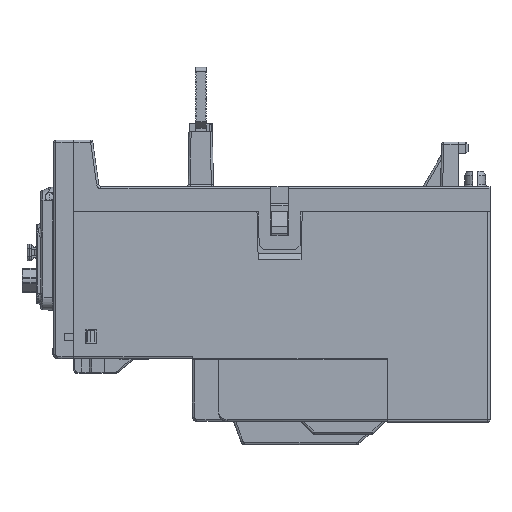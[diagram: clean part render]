
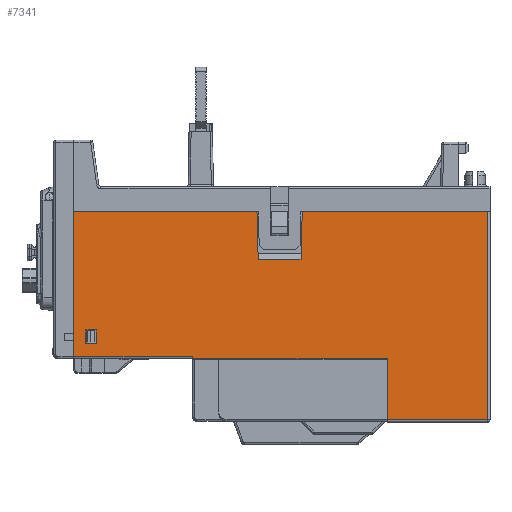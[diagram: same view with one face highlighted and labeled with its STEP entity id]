
A CAD part, left-side view. The second image highlights one B-rep face of the part: STEP entity #7341.
In plain terms, the highlighted planar face has unit normal (-1, 0, 0).
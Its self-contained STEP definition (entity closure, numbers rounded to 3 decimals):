
#2607=FACE_BOUND('',#27118,.T.);
#2608=FACE_BOUND('',#27119,.T.);
#7341=ADVANCED_FACE('',(#2607,#2608),#14533,.T.);
#14533=PLANE('',#139968);
#27118=EDGE_LOOP('',(#36212,#36213,#36214,#36215,#36216,#36217,#36218,#36219,
#36220,#36221,#36222,#36223));
#27119=EDGE_LOOP('',(#36224,#36225,#36226,#36227));
#36212=ORIENTED_EDGE('',*,*,#89007,.F.);
#36213=ORIENTED_EDGE('',*,*,#89008,.T.);
#36214=ORIENTED_EDGE('',*,*,#87931,.F.);
#36215=ORIENTED_EDGE('',*,*,#89009,.T.);
#36216=ORIENTED_EDGE('',*,*,#89010,.T.);
#36217=ORIENTED_EDGE('',*,*,#89011,.T.);
#36218=ORIENTED_EDGE('',*,*,#87964,.T.);
#36219=ORIENTED_EDGE('',*,*,#88313,.F.);
#36220=ORIENTED_EDGE('',*,*,#89012,.F.);
#36221=ORIENTED_EDGE('',*,*,#89013,.F.);
#36222=ORIENTED_EDGE('',*,*,#88700,.F.);
#36223=ORIENTED_EDGE('',*,*,#88789,.T.);
#36224=ORIENTED_EDGE('',*,*,#89014,.F.);
#36225=ORIENTED_EDGE('',*,*,#89015,.F.);
#36226=ORIENTED_EDGE('',*,*,#89016,.F.);
#36227=ORIENTED_EDGE('',*,*,#89017,.F.);
#74758=VERTEX_POINT('',#185927);
#74759=VERTEX_POINT('',#185929);
#74791=VERTEX_POINT('',#185994);
#74792=VERTEX_POINT('',#185996);
#75065=VERTEX_POINT('',#186692);
#75371=VERTEX_POINT('',#187453);
#75372=VERTEX_POINT('',#187455);
#75428=VERTEX_POINT('',#187627);
#75563=VERTEX_POINT('',#188034);
#75564=VERTEX_POINT('',#188039);
#75565=VERTEX_POINT('',#188041);
#75566=VERTEX_POINT('',#188044);
#75567=VERTEX_POINT('',#188047);
#75568=VERTEX_POINT('',#188048);
#75569=VERTEX_POINT('',#188050);
#75570=VERTEX_POINT('',#188052);
#87931=EDGE_CURVE('',#74758,#74759,#108003,.T.);
#87964=EDGE_CURVE('',#74792,#74791,#108033,.T.);
#88313=EDGE_CURVE('',#75065,#74791,#108317,.T.);
#88700=EDGE_CURVE('',#75371,#75372,#108652,.T.);
#88789=EDGE_CURVE('',#75371,#75428,#108708,.T.);
#89007=EDGE_CURVE('',#75563,#75428,#108913,.T.);
#89008=EDGE_CURVE('',#75563,#74759,#108914,.T.);
#89009=EDGE_CURVE('',#74758,#75564,#108915,.T.);
#89010=EDGE_CURVE('',#75564,#75565,#108916,.T.);
#89011=EDGE_CURVE('',#75565,#74792,#108917,.T.);
#89012=EDGE_CURVE('',#75566,#75065,#108918,.T.);
#89013=EDGE_CURVE('',#75372,#75566,#108919,.T.);
#89014=EDGE_CURVE('',#75567,#75568,#108920,.T.);
#89015=EDGE_CURVE('',#75569,#75567,#108921,.T.);
#89016=EDGE_CURVE('',#75570,#75569,#108922,.T.);
#89017=EDGE_CURVE('',#75568,#75570,#108923,.T.);
#108003=LINE('',#185928,#123742);
#108033=LINE('',#185995,#123772);
#108317=LINE('',#186693,#124056);
#108652=LINE('',#187454,#124391);
#108708=LINE('',#187628,#124447);
#108913=LINE('',#188035,#124652);
#108914=LINE('',#188037,#124653);
#108915=LINE('',#188038,#124654);
#108916=LINE('',#188040,#124655);
#108917=LINE('',#188042,#124656);
#108918=LINE('',#188043,#124657);
#108919=LINE('',#188045,#124658);
#108920=LINE('',#188046,#124659);
#108921=LINE('',#188049,#124660);
#108922=LINE('',#188051,#124661);
#108923=LINE('',#188053,#124662);
#123742=VECTOR('',#149793,1.);
#123772=VECTOR('',#149831,1.);
#124056=VECTOR('',#150395,1.);
#124391=VECTOR('',#150970,1.);
#124447=VECTOR('',#151148,1.);
#124652=VECTOR('',#151487,1.);
#124653=VECTOR('',#151490,1.);
#124654=VECTOR('',#151491,1.);
#124655=VECTOR('',#151492,1.);
#124656=VECTOR('',#151493,1.);
#124657=VECTOR('',#151494,1.);
#124658=VECTOR('',#151495,1.);
#124659=VECTOR('',#151496,1.);
#124660=VECTOR('',#151497,1.);
#124661=VECTOR('',#151498,1.);
#124662=VECTOR('',#151499,1.);
#139968=AXIS2_PLACEMENT_3D('',#188054,#151500,#151501);
#149793=DIRECTION('',(0.,-1.,0.));
#149831=DIRECTION('',(0.,1.,0.));
#150395=DIRECTION('',(0.,0.,1.));
#150970=DIRECTION('',(0.,1.,0.));
#151148=DIRECTION('',(0.,0.,-1.));
#151487=DIRECTION('',(0.,1.,0.));
#151490=DIRECTION('',(0.,0.,1.));
#151491=DIRECTION('',(0.,0.026,-1.));
#151492=DIRECTION('',(0.,1.,0.));
#151493=DIRECTION('',(0.,0.026,1.));
#151494=DIRECTION('',(0.,1.,0.));
#151495=DIRECTION('',(0.,0.,1.));
#151496=DIRECTION('',(0.,0.,1.));
#151497=DIRECTION('',(0.,-1.,0.));
#151498=DIRECTION('',(0.,0.,-1.));
#151499=DIRECTION('',(0.,1.,0.));
#151500=DIRECTION('',(-1.,0.,0.));
#151501=DIRECTION('',(0.,-1.,0.));
#185927=CARTESIAN_POINT('',(-27.5,-4.832,2.756));
#185928=CARTESIAN_POINT('',(-27.5,-4.832,2.756));
#185929=CARTESIAN_POINT('',(-27.5,-48.725,2.756));
#185994=CARTESIAN_POINT('',(-27.5,49.225,2.756));
#185995=CARTESIAN_POINT('',(-27.5,5.882,2.756));
#185996=CARTESIAN_POINT('',(-27.5,5.882,2.756));
#186692=CARTESIAN_POINT('',(-27.5,49.225,-31.444));
#186693=CARTESIAN_POINT('',(-27.5,49.225,-31.444));
#187453=CARTESIAN_POINT('',(-27.5,-24.975,-31.944));
#187454=CARTESIAN_POINT('',(-27.5,-24.975,-31.944));
#187455=CARTESIAN_POINT('',(-27.5,21.125,-31.944));
#187627=CARTESIAN_POINT('',(-27.5,-24.975,-46.444));
#187628=CARTESIAN_POINT('',(-27.5,-24.975,-31.944));
#188034=CARTESIAN_POINT('',(-27.5,-48.725,-46.444));
#188035=CARTESIAN_POINT('',(-27.5,-49.225,-46.444));
#188037=CARTESIAN_POINT('',(-27.5,-48.725,-47.544));
#188038=CARTESIAN_POINT('',(-27.5,-4.832,2.756));
#188039=CARTESIAN_POINT('',(-27.5,-4.538,-8.444));
#188040=CARTESIAN_POINT('',(-27.5,-4.538,-8.444));
#188041=CARTESIAN_POINT('',(-27.5,5.588,-8.444));
#188042=CARTESIAN_POINT('',(-27.5,5.588,-8.444));
#188043=CARTESIAN_POINT('',(-27.5,21.125,-31.444));
#188044=CARTESIAN_POINT('',(-27.5,21.125,-31.444));
#188045=CARTESIAN_POINT('',(-27.5,21.125,-31.944));
#188046=CARTESIAN_POINT('',(-27.5,43.825,-28.444));
#188047=CARTESIAN_POINT('',(-27.5,43.825,-28.444));
#188048=CARTESIAN_POINT('',(-27.5,43.825,-25.144));
#188049=CARTESIAN_POINT('',(-27.5,46.325,-28.444));
#188050=CARTESIAN_POINT('',(-27.5,46.325,-28.444));
#188051=CARTESIAN_POINT('',(-27.5,46.325,-25.144));
#188052=CARTESIAN_POINT('',(-27.5,46.325,-25.144));
#188053=CARTESIAN_POINT('',(-27.5,43.825,-25.144));
#188054=CARTESIAN_POINT('',(-27.5,17.525,-47.544));
